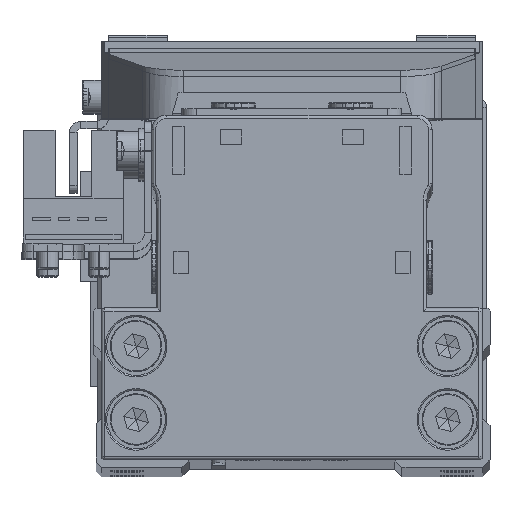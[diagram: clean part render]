
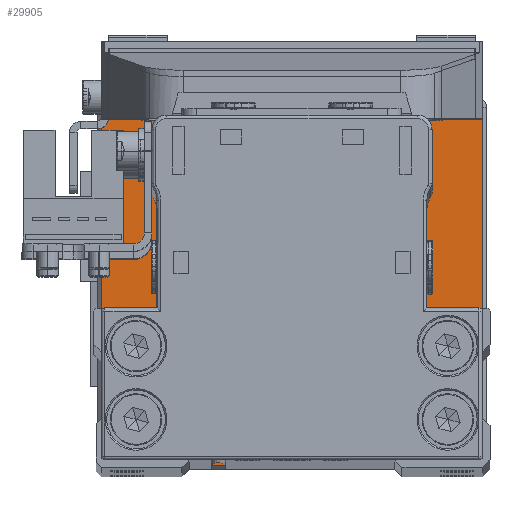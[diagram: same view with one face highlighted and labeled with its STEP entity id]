
A CAD part, top view. The second image highlights one B-rep face of the part: STEP entity #29905.
In plain terms, the highlighted planar face has unit normal (0, 0, 1).
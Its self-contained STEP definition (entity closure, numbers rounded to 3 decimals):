
#208 = DIRECTION ( 'NONE',  ( 0., 1., 0. ) ) ;
#292 = CARTESIAN_POINT ( 'NONE',  ( 21.25, 19.95, 6.5 ) ) ;
#389 = CARTESIAN_POINT ( 'NONE',  ( 0., 0., 6.5 ) ) ;
#661 = DIRECTION ( 'NONE',  ( 1., 0., 0. ) ) ;
#758 = VERTEX_POINT ( 'NONE', #5793 ) ;
#830 = CARTESIAN_POINT ( 'NONE',  ( -26., -23.95, 6.5 ) ) ;
#1904 = DIRECTION ( 'NONE',  ( 0., 0., 1. ) ) ;
#2207 = EDGE_CURVE ( 'NONE', #18910, #13251, #13019, .T. ) ;
#2463 = EDGE_LOOP ( 'NONE', ( #7489, #18559 ) ) ;
#2601 = CARTESIAN_POINT ( 'NONE',  ( 21.25, 19.95, 6.5 ) ) ;
#2960 = VERTEX_POINT ( 'NONE', #30171 ) ;
#2986 = FACE_BOUND ( 'NONE', #2463, .T. ) ;
#3325 = CARTESIAN_POINT ( 'NONE',  ( -21.25, 9.95, 6.5 ) ) ;
#3494 = ORIENTED_EDGE ( 'NONE', *, *, #4469, .T. ) ;
#3703 = EDGE_LOOP ( 'NONE', ( #26634, #12697 ) ) ;
#3999 = AXIS2_PLACEMENT_3D ( 'NONE', #32663, #8817, #19402 ) ;
#4319 = EDGE_CURVE ( 'NONE', #2960, #18910, #32792, .T. ) ;
#4469 = EDGE_CURVE ( 'NONE', #26320, #19985, #32822, .T. ) ;
#4805 = DIRECTION ( 'NONE',  ( -1., 0., 0. ) ) ;
#5191 = DIRECTION ( 'NONE',  ( -1., 0., 0. ) ) ;
#5397 = CARTESIAN_POINT ( 'NONE',  ( -25., 24.95, 6.5 ) ) ;
#5589 = FACE_BOUND ( 'NONE', #30661, .T. ) ;
#5793 = CARTESIAN_POINT ( 'NONE',  ( 23.65, 19.95, 6.5 ) ) ;
#6014 = VERTEX_POINT ( 'NONE', #33728 ) ;
#7123 = CARTESIAN_POINT ( 'NONE',  ( -18.85, 9.95, 6.5 ) ) ;
#7200 = DIRECTION ( 'NONE',  ( 1., 0., 0. ) ) ;
#7366 = CARTESIAN_POINT ( 'NONE',  ( 18.85, 9.95, 6.5 ) ) ;
#7422 = LINE ( 'NONE', #18001, #10994 ) ;
#7489 = ORIENTED_EDGE ( 'NONE', *, *, #29417, .T. ) ;
#7567 = VERTEX_POINT ( 'NONE', #21156 ) ;
#8155 = DIRECTION ( 'NONE',  ( 0., 0., 1. ) ) ;
#8402 = CARTESIAN_POINT ( 'NONE',  ( -21.25, 19.95, 6.5 ) ) ;
#8625 = CARTESIAN_POINT ( 'NONE',  ( -18.85, 19.95, 6.5 ) ) ;
#8740 = ORIENTED_EDGE ( 'NONE', *, *, #27879, .T. ) ;
#8817 = DIRECTION ( 'NONE',  ( 0., 0., -1. ) ) ;
#8947 = CARTESIAN_POINT ( 'NONE',  ( -25., 24.95, 6.5 ) ) ;
#9161 = CARTESIAN_POINT ( 'NONE',  ( -25., -24.95, 6.5 ) ) ;
#9314 = CIRCLE ( 'NONE', #28752, 2.4 ) ;
#9408 = ORIENTED_EDGE ( 'NONE', *, *, #2207, .T. ) ;
#9521 = ORIENTED_EDGE ( 'NONE', *, *, #12417, .T. ) ;
#9798 = CARTESIAN_POINT ( 'NONE',  ( 21.25, 9.95, 6.5 ) ) ;
#9802 = DIRECTION ( 'NONE',  ( 1., 0., 0. ) ) ;
#9873 = CIRCLE ( 'NONE', #29321, 1. ) ;
#10411 = AXIS2_PLACEMENT_3D ( 'NONE', #13831, #24459, #661 ) ;
#10573 = VERTEX_POINT ( 'NONE', #15481 ) ;
#10857 = DIRECTION ( 'NONE',  ( 0., 0., -1. ) ) ;
#10958 = DIRECTION ( 'NONE',  ( 0., 0., 1. ) ) ;
#10994 = VECTOR ( 'NONE', #28643, 1000. ) ;
#11276 = CIRCLE ( 'NONE', #30758, 1. ) ;
#11377 = AXIS2_PLACEMENT_3D ( 'NONE', #18369, #29009, #5191 ) ;
#11785 = CIRCLE ( 'NONE', #31251, 2.4 ) ;
#12417 = EDGE_CURVE ( 'NONE', #19121, #758, #9314, .T. ) ;
#12471 = DIRECTION ( 'NONE',  ( 1., 0., 0. ) ) ;
#12671 = ORIENTED_EDGE ( 'NONE', *, *, #23746, .T. ) ;
#12697 = ORIENTED_EDGE ( 'NONE', *, *, #21597, .T. ) ;
#12812 = EDGE_CURVE ( 'NONE', #13251, #13022, #7422, .T. ) ;
#13007 = EDGE_CURVE ( 'NONE', #6014, #2960, #25419, .T. ) ;
#13009 = VERTEX_POINT ( 'NONE', #8625 ) ;
#13019 = CIRCLE ( 'NONE', #32508, 1. ) ;
#13022 = VERTEX_POINT ( 'NONE', #830 ) ;
#13169 = DIRECTION ( 'NONE',  ( 0., 0., -1. ) ) ;
#13251 = VERTEX_POINT ( 'NONE', #17627 ) ;
#13368 = LINE ( 'NONE', #23986, #17806 ) ;
#13557 = FACE_OUTER_BOUND ( 'NONE', #25519, .T. ) ;
#13831 = CARTESIAN_POINT ( 'NONE',  ( 25., 23.95, 6.5 ) ) ;
#13900 = DIRECTION ( 'NONE',  ( 0., 0., -1. ) ) ;
#14297 = VECTOR ( 'NONE', #7200, 1000. ) ;
#14729 = VERTEX_POINT ( 'NONE', #25480 ) ;
#14865 = CARTESIAN_POINT ( 'NONE',  ( 18.85, 19.95, 6.5 ) ) ;
#15167 = ORIENTED_EDGE ( 'NONE', *, *, #27618, .T. ) ;
#15481 = CARTESIAN_POINT ( 'NONE',  ( 26., -23.95, 6.5 ) ) ;
#15503 = ORIENTED_EDGE ( 'NONE', *, *, #27880, .T. ) ;
#15774 = ORIENTED_EDGE ( 'NONE', *, *, #12812, .T. ) ;
#16152 = FACE_BOUND ( 'NONE', #31330, .T. ) ;
#16501 = ORIENTED_EDGE ( 'NONE', *, *, #20786, .T. ) ;
#16935 = CIRCLE ( 'NONE', #21393, 2.4 ) ;
#17173 = ORIENTED_EDGE ( 'NONE', *, *, #4319, .T. ) ;
#17507 = VECTOR ( 'NONE', #19524, 1000. ) ;
#17627 = CARTESIAN_POINT ( 'NONE',  ( -26., 23.95, 6.5 ) ) ;
#17790 = AXIS2_PLACEMENT_3D ( 'NONE', #9798, #20384, #31034 ) ;
#17806 = VECTOR ( 'NONE', #208, 1000. ) ;
#17983 = CARTESIAN_POINT ( 'NONE',  ( -21.25, 19.95, 6.5 ) ) ;
#18001 = CARTESIAN_POINT ( 'NONE',  ( -26., -23.95, 6.5 ) ) ;
#18158 = AXIS2_PLACEMENT_3D ( 'NONE', #292, #10857, #21453 ) ;
#18188 = AXIS2_PLACEMENT_3D ( 'NONE', #8402, #18985, #29632 ) ;
#18369 = CARTESIAN_POINT ( 'NONE',  ( -21.25, 9.95, 6.5 ) ) ;
#18559 = ORIENTED_EDGE ( 'NONE', *, *, #25875, .T. ) ;
#18742 = ORIENTED_EDGE ( 'NONE', *, *, #13007, .T. ) ;
#18744 = DIRECTION ( 'NONE',  ( 1., 0., 0. ) ) ;
#18910 = VERTEX_POINT ( 'NONE', #5397 ) ;
#18985 = DIRECTION ( 'NONE',  ( 0., 0., -1. ) ) ;
#19121 = VERTEX_POINT ( 'NONE', #14865 ) ;
#19402 = DIRECTION ( 'NONE',  ( -1., 0., 0. ) ) ;
#19524 = DIRECTION ( 'NONE',  ( -1., 0., 0. ) ) ;
#19985 = VERTEX_POINT ( 'NONE', #33078 ) ;
#20236 = EDGE_CURVE ( 'NONE', #10573, #6014, #13368, .T. ) ;
#20384 = DIRECTION ( 'NONE',  ( 0., 0., -1. ) ) ;
#20388 = LINE ( 'NONE', #31037, #14297 ) ;
#20786 = EDGE_CURVE ( 'NONE', #19985, #26320, #33973, .T. ) ;
#21156 = CARTESIAN_POINT ( 'NONE',  ( -23.65, 19.95, 6.5 ) ) ;
#21393 = AXIS2_PLACEMENT_3D ( 'NONE', #17983, #28624, #4805 ) ;
#21453 = DIRECTION ( 'NONE',  ( -1., 0., 0. ) ) ;
#21555 = DIRECTION ( 'NONE',  ( 1., 0., 0. ) ) ;
#21597 = EDGE_CURVE ( 'NONE', #30167, #14729, #11785, .T. ) ;
#22685 = AXIS2_PLACEMENT_3D ( 'NONE', #389, #10958, #21555 ) ;
#23012 = CARTESIAN_POINT ( 'NONE',  ( 25., -23.95, 6.5 ) ) ;
#23746 = EDGE_CURVE ( 'NONE', #13022, #28635, #11276, .T. ) ;
#23787 = DIRECTION ( 'NONE',  ( -1., 0., 0. ) ) ;
#23986 = CARTESIAN_POINT ( 'NONE',  ( 26., 23.95, 6.5 ) ) ;
#24172 = PLANE ( 'NONE',  #22685 ) ;
#24459 = DIRECTION ( 'NONE',  ( 0., 0., 1. ) ) ;
#24525 = DIRECTION ( 'NONE',  ( -1., 0., 0. ) ) ;
#25419 = CIRCLE ( 'NONE', #10411, 1. ) ;
#25480 = CARTESIAN_POINT ( 'NONE',  ( -23.65, 9.95, 6.5 ) ) ;
#25486 = EDGE_CURVE ( 'NONE', #14729, #30167, #26362, .T. ) ;
#25519 = EDGE_LOOP ( 'NONE', ( #9408, #15774, #12671, #15503, #8740, #31255, #18742, #17173 ) ) ;
#25703 = CARTESIAN_POINT ( 'NONE',  ( -25., 23.95, 6.5 ) ) ;
#25875 = EDGE_CURVE ( 'NONE', #13009, #7567, #16935, .T. ) ;
#26320 = VERTEX_POINT ( 'NONE', #7366 ) ;
#26362 = CIRCLE ( 'NONE', #11377, 2.4 ) ;
#26634 = ORIENTED_EDGE ( 'NONE', *, *, #25486, .T. ) ;
#26786 = FACE_BOUND ( 'NONE', #3703, .T. ) ;
#27618 = EDGE_CURVE ( 'NONE', #758, #19121, #33203, .T. ) ;
#27879 = EDGE_CURVE ( 'NONE', #32248, #10573, #9873, .T. ) ;
#27880 = EDGE_CURVE ( 'NONE', #28635, #32248, #20388, .T. ) ;
#28498 = CARTESIAN_POINT ( 'NONE',  ( 25., -24.95, 6.5 ) ) ;
#28624 = DIRECTION ( 'NONE',  ( 0., 0., -1. ) ) ;
#28635 = VERTEX_POINT ( 'NONE', #9161 ) ;
#28643 = DIRECTION ( 'NONE',  ( 0., -1., 0. ) ) ;
#28752 = AXIS2_PLACEMENT_3D ( 'NONE', #2601, #13169, #23787 ) ;
#29009 = DIRECTION ( 'NONE',  ( 0., 0., -1. ) ) ;
#29321 = AXIS2_PLACEMENT_3D ( 'NONE', #23012, #33647, #9802 ) ;
#29417 = EDGE_CURVE ( 'NONE', #7567, #13009, #33243, .T. ) ;
#29632 = DIRECTION ( 'NONE',  ( -1., 0., 0. ) ) ;
#29905 = ADVANCED_FACE ( 'NONE', ( #5589, #16152, #26786, #2986, #13557 ), #24172, .T. ) ;
#30167 = VERTEX_POINT ( 'NONE', #7123 ) ;
#30171 = CARTESIAN_POINT ( 'NONE',  ( 25., 24.95, 6.5 ) ) ;
#30661 = EDGE_LOOP ( 'NONE', ( #9521, #15167 ) ) ;
#30758 = AXIS2_PLACEMENT_3D ( 'NONE', #31994, #8155, #18744 ) ;
#31034 = DIRECTION ( 'NONE',  ( -1., 0., 0. ) ) ;
#31037 = CARTESIAN_POINT ( 'NONE',  ( 25., -24.95, 6.5 ) ) ;
#31251 = AXIS2_PLACEMENT_3D ( 'NONE', #3325, #13900, #24525 ) ;
#31255 = ORIENTED_EDGE ( 'NONE', *, *, #20236, .T. ) ;
#31330 = EDGE_LOOP ( 'NONE', ( #3494, #16501 ) ) ;
#31994 = CARTESIAN_POINT ( 'NONE',  ( -25., -23.95, 6.5 ) ) ;
#32248 = VERTEX_POINT ( 'NONE', #28498 ) ;
#32508 = AXIS2_PLACEMENT_3D ( 'NONE', #25703, #1904, #12471 ) ;
#32663 = CARTESIAN_POINT ( 'NONE',  ( 21.25, 9.95, 6.5 ) ) ;
#32792 = LINE ( 'NONE', #8947, #17507 ) ;
#32822 = CIRCLE ( 'NONE', #17790, 2.4 ) ;
#33078 = CARTESIAN_POINT ( 'NONE',  ( 23.65, 9.95, 6.5 ) ) ;
#33203 = CIRCLE ( 'NONE', #18158, 2.4 ) ;
#33243 = CIRCLE ( 'NONE', #18188, 2.4 ) ;
#33647 = DIRECTION ( 'NONE',  ( 0., 0., 1. ) ) ;
#33728 = CARTESIAN_POINT ( 'NONE',  ( 26., 23.95, 6.5 ) ) ;
#33973 = CIRCLE ( 'NONE', #3999, 2.4 ) ;
